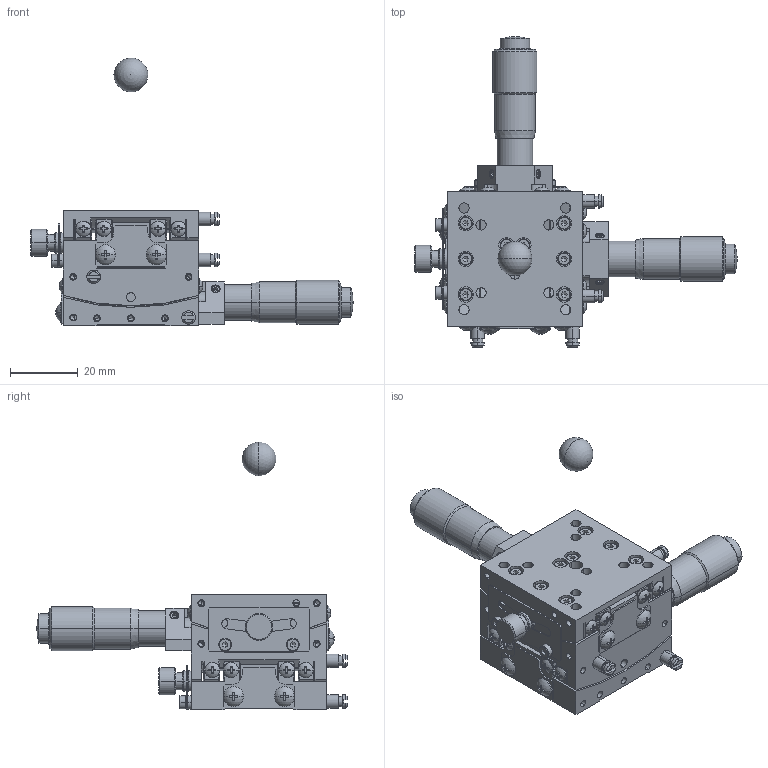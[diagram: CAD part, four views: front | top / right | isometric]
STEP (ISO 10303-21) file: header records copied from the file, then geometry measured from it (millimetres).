
FILE_DESCRIPTION (( 'STEP AP203' ), '1' );
FILE_NAME ('ST04A-C1S.STEP', '2010-01-28T07:53:05', ( ' ' ), ( ' ' ), 'SwSTEP 2.0', 'SolidWorks 2009', '' );
FILE_SCHEMA (( 'CONFIG_CONTROL_DESIGN' ));
Length unit declared in the file: millimetre
Products named in the file (12): DP002890-1010-00-Part-1; DP002890-1010-00; DP002892-1020-00; DP002892-1020-00-Part-1; MICROMETERHEAD(MHS4-13)spindle-1; ST04A-C1S; ST04A-C1T(PL); MICROMETERHEAD(MHS4-13)spindle; ST04A-C1M(PL); DP002892-1010-00; DP002892-1010-00-Part-1; ST04A-C1S.sldasm-Part-1
Assembly tree (11 placements, depth 4):
  ST04A-C1S
    ST04A-C1T(PL)
      MICROMETERHEAD(MHS4-13)spindle
      DP002890-1010-00
        DP002890-1010-00-Part-1
    ST04A-C1S.sldasm-Part-1
    ST04A-C1M(PL)
      DP002892-1010-00
        DP002892-1010-00-Part-1
      DP002892-1020-00
        DP002892-1020-00-Part-1
      MICROMETERHEAD(MHS4-13)spindle-1
Bounding box: 95 x 91.5 x 79 mm (x, y, z)
Volume: 55994.1 mm3; surface area: 45045.4 mm2
Topology: 6 solids, 92 shells, 3312 faces, 7907 edges, 4694 vertices
Faces by surface type: plane 1440, cylinder 1064, cone 742, sphere 50, torus 16
Entity records: 99843 total; most frequent: CARTESIAN_POINT 21626, DIRECTION 16921, ORIENTED_EDGE 15396, EDGE_CURVE 7698, AXIS2_PLACEMENT_3D 6536, VERTEX_POINT 4691, VECTOR 3849, LINE 3849
